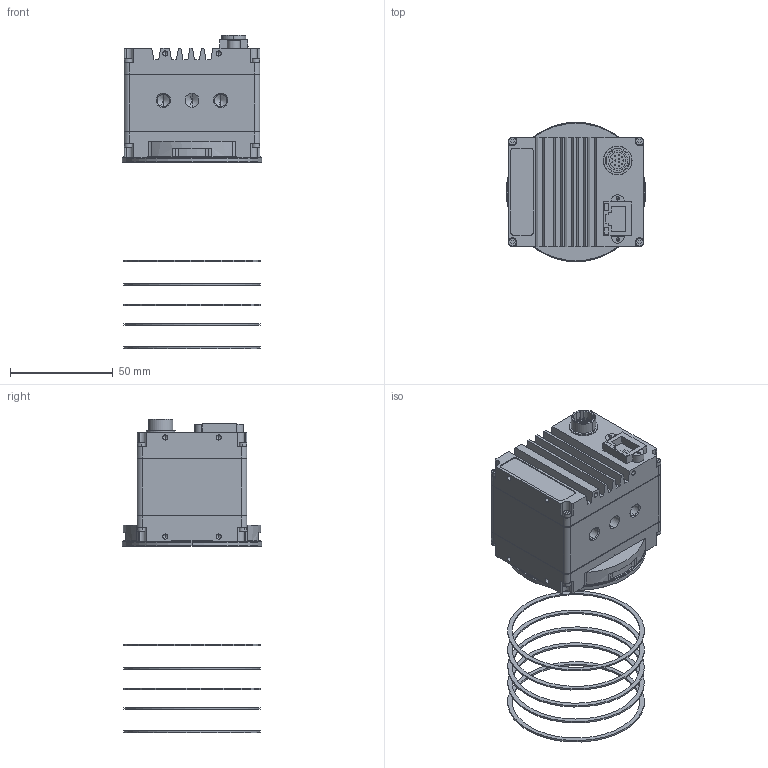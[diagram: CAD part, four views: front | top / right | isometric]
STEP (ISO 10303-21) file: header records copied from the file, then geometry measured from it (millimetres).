
FILE_DESCRIPTION (( 'STEP AP214' ), '1' );
FILE_NAME ('GT4907 M58.STEP', '2016-01-22T23:59:37', ( '' ), ( '' ), 'SwSTEP 2.0', 'SolidWorks 2015', '' );
FILE_SCHEMA (( 'AUTOMOTIVE_DESIGN' ));
Length unit declared in the file: millimetre
Products named in the file (9): 0.635MM PRECISION SHIM - defeatured; GT4907 M58; M58 FLANGE - defeatured; FIXED M58 GTLF BODY ASSY - defeatured_GT4907; 0.813MM PRECISION SHIM - defeatured; 0.914MM PRECISION SHIM - defeatured; 0.381MM PRECISION SHIM - defeatured; 0.787MM PRECISION SHIM - defeatured; 0.737MM PRECISION SHIM - defeatured
Assembly tree (8 placements, depth 2):
  GT4907 M58
    FIXED M58 GTLF BODY ASSY - defeatured_GT4907
    0.381MM PRECISION SHIM - defeatured
    0.635MM PRECISION SHIM - defeatured
    0.737MM PRECISION SHIM - defeatured
    0.787MM PRECISION SHIM - defeatured
    0.813MM PRECISION SHIM - defeatured
    0.914MM PRECISION SHIM - defeatured
    M58 FLANGE - defeatured
Bounding box: 68 x 68 x 152.62 mm (x, y, z)
Volume: 168962.7 mm3; surface area: 39474 mm2
Topology: 8 solids, 20 shells, 720 faces, 1784 edges, 1076 vertices
Faces by surface type: cylinder 309, plane 250, cone 120, sphere 24, torus 17
Entity records: 24601 total; most frequent: DIRECTION 3805, CARTESIAN_POINT 3795, ORIENTED_EDGE 3304, EDGE_CURVE 1652, AXIS2_PLACEMENT_3D 1442, VERTEX_POINT 1052, LINE 921, VECTOR 921
